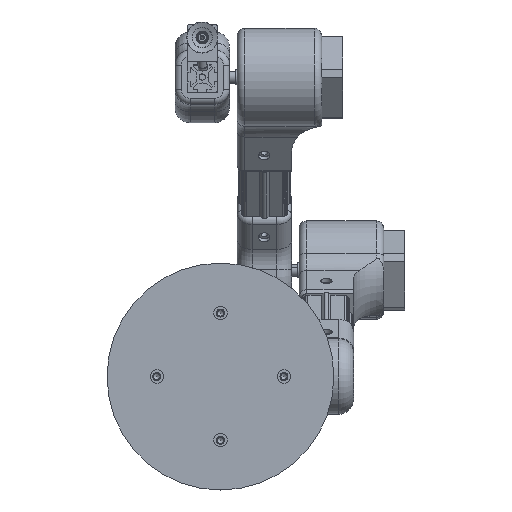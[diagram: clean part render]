
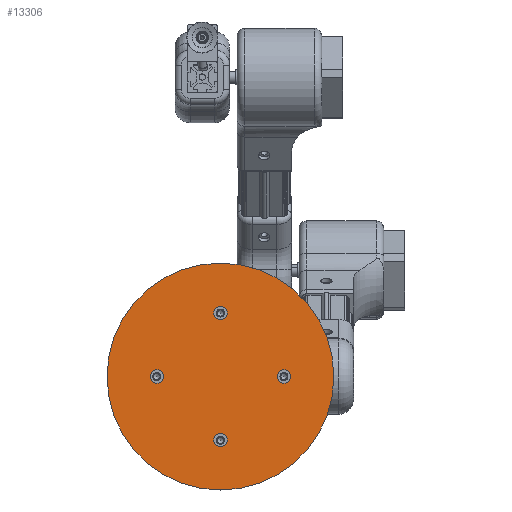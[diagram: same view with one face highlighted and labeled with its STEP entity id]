
A CAD part, front view. The second image highlights one B-rep face of the part: STEP entity #13306.
In plain terms, the highlighted planar face has unit normal (0, -1, 0) as drawn and (0, 1, 0) by its records, which use the part's own axes.
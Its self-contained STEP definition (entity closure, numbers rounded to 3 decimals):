
#954=FACE_BOUND('',#2859,.T.);
#955=FACE_BOUND('',#2860,.T.);
#956=FACE_BOUND('',#2861,.T.);
#957=FACE_BOUND('',#2862,.T.);
#1218=CIRCLE('',#14628,75.);
#1221=CIRCLE('',#14633,4.5);
#1225=CIRCLE('',#14640,4.5);
#1229=CIRCLE('',#14647,4.5);
#1233=CIRCLE('',#14654,4.5);
#2065=FACE_OUTER_BOUND('',#2858,.T.);
#2858=EDGE_LOOP('',(#9302));
#2859=EDGE_LOOP('',(#9303));
#2860=EDGE_LOOP('',(#9304));
#2861=EDGE_LOOP('',(#9305));
#2862=EDGE_LOOP('',(#9306));
#5767=VERTEX_POINT('',#20843);
#5770=VERTEX_POINT('',#20852);
#5774=VERTEX_POINT('',#20865);
#5778=VERTEX_POINT('',#20878);
#5782=VERTEX_POINT('',#20891);
#7153=EDGE_CURVE('',#5767,#5767,#1218,.T.);
#7156=EDGE_CURVE('',#5770,#5770,#1221,.T.);
#7162=EDGE_CURVE('',#5774,#5774,#1225,.T.);
#7168=EDGE_CURVE('',#5778,#5778,#1229,.T.);
#7174=EDGE_CURVE('',#5782,#5782,#1233,.T.);
#9302=ORIENTED_EDGE('',*,*,#7153,.T.);
#9303=ORIENTED_EDGE('',*,*,#7156,.T.);
#9304=ORIENTED_EDGE('',*,*,#7162,.T.);
#9305=ORIENTED_EDGE('',*,*,#7168,.T.);
#9306=ORIENTED_EDGE('',*,*,#7174,.T.);
#12888=PLANE('',#14657);
#13306=ADVANCED_FACE('',(#2065,#954,#955,#956,#957),#12888,.T.);
#14628=AXIS2_PLACEMENT_3D('',#20845,#16546,#16547);
#14633=AXIS2_PLACEMENT_3D('',#20853,#16556,#16557);
#14640=AXIS2_PLACEMENT_3D('',#20866,#16572,#16573);
#14647=AXIS2_PLACEMENT_3D('',#20879,#16588,#16589);
#14654=AXIS2_PLACEMENT_3D('',#20892,#16604,#16605);
#14657=AXIS2_PLACEMENT_3D('',#20898,#16612,#16613);
#16546=DIRECTION('center_axis',(0.,1.,0.));
#16547=DIRECTION('ref_axis',(1.,0.,0.));
#16556=DIRECTION('center_axis',(0.,-1.,0.));
#16557=DIRECTION('ref_axis',(0.,0.,1.));
#16572=DIRECTION('center_axis',(0.,-1.,0.));
#16573=DIRECTION('ref_axis',(-1.,0.,0.));
#16588=DIRECTION('center_axis',(0.,-1.,0.));
#16589=DIRECTION('ref_axis',(0.,0.,-1.));
#16604=DIRECTION('center_axis',(0.,-1.,0.));
#16605=DIRECTION('ref_axis',(1.,0.,0.));
#16612=DIRECTION('center_axis',(0.,1.,0.));
#16613=DIRECTION('ref_axis',(0.,0.,1.));
#20843=CARTESIAN_POINT('',(-75.,40.,0.));
#20845=CARTESIAN_POINT('Origin',(0.,40.,0.));
#20852=CARTESIAN_POINT('',(0.,40.,37.5));
#20853=CARTESIAN_POINT('Origin',(0.,40.,42.));
#20865=CARTESIAN_POINT('',(-37.5,40.,0.));
#20866=CARTESIAN_POINT('Origin',(-42.,40.,0.));
#20878=CARTESIAN_POINT('',(0.,40.,-37.5));
#20879=CARTESIAN_POINT('Origin',(0.,40.,-42.));
#20891=CARTESIAN_POINT('',(37.5,40.,0.));
#20892=CARTESIAN_POINT('Origin',(42.,40.,0.));
#20898=CARTESIAN_POINT('Origin',(0.,40.,0.));
